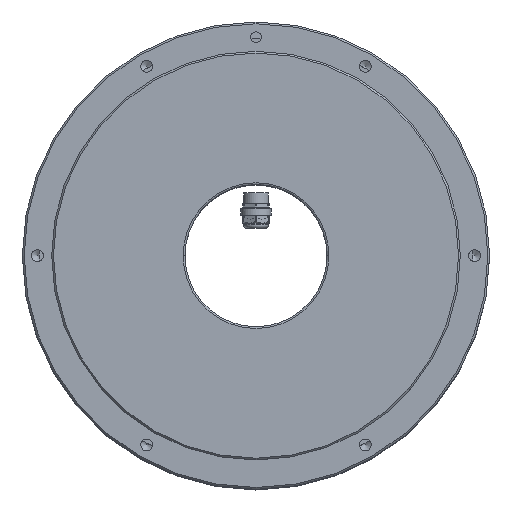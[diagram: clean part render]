
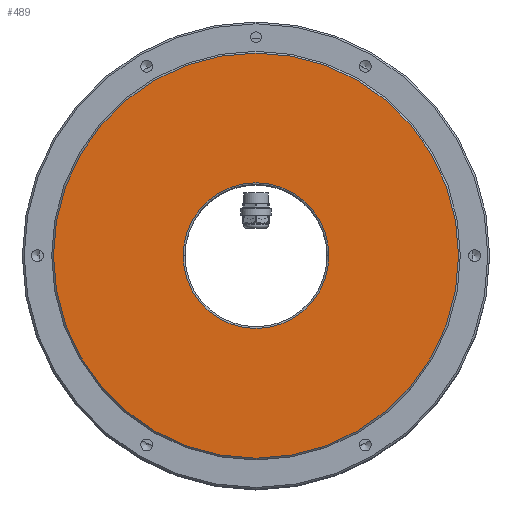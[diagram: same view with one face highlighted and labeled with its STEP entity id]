
A CAD part, top view. The second image highlights one B-rep face of the part: STEP entity #489.
In plain terms, the highlighted planar face has unit normal (0, 0, 1).
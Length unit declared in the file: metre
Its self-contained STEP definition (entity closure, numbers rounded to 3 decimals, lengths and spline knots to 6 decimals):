
#489 = ADVANCED_FACE( '', ( #916, #917 ), #918, .T. );
#916 = FACE_BOUND( '', #1425, .T. );
#917 = FACE_OUTER_BOUND( '', #1426, .T. );
#918 = PLANE( '', #1427 );
#1425 = EDGE_LOOP( '', ( #2524 ) );
#1426 = EDGE_LOOP( '', ( #2525 ) );
#1427 = AXIS2_PLACEMENT_3D( '', #2526, #2527, #2528 );
#2524 = ORIENTED_EDGE( '', *, *, #3015, .T. );
#2525 = ORIENTED_EDGE( '', *, *, #3055, .T. );
#2526 = CARTESIAN_POINT( '', ( -0.115, 0., 0.01 ) );
#2527 = DIRECTION( '', ( 0., 0., 1. ) );
#2528 = DIRECTION( '', ( 1., 0., 0. ) );
#3015 = EDGE_CURVE( '', #3512, #3512, #3513, .F. );
#3055 = EDGE_CURVE( '', #3578, #3578, #3579, .T. );
#3512 = VERTEX_POINT( '', #4304 );
#3513 = CIRCLE( '', #4305, 0.041 );
#3578 = VERTEX_POINT( '', #4417 );
#3579 = CIRCLE( '', #4418, 0.114 );
#4304 = CARTESIAN_POINT( '', ( 0.041, 0., 0.01 ) );
#4305 = AXIS2_PLACEMENT_3D( '', #4995, #4996, #4997 );
#4417 = CARTESIAN_POINT( '', ( 0.114, 0., 0.01 ) );
#4418 = AXIS2_PLACEMENT_3D( '', #5081, #5082, #5083 );
#4995 = CARTESIAN_POINT( '', ( 0., 0., 0.01 ) );
#4996 = DIRECTION( '', ( 0., 0., 1. ) );
#4997 = DIRECTION( '', ( 1., 0., 0. ) );
#5081 = CARTESIAN_POINT( '', ( 0., 0., 0.01 ) );
#5082 = DIRECTION( '', ( 0., 0., 1. ) );
#5083 = DIRECTION( '', ( 1., 0., 0. ) );
